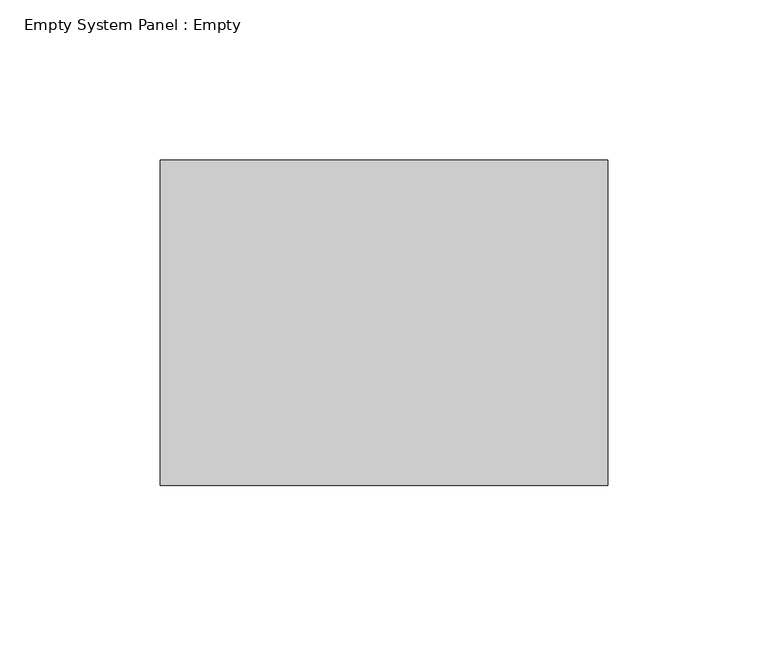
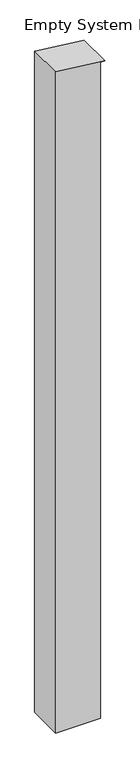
"""IFC4 building model written with IfcOpenShell, lengths in millimetres: plate geometry, Empty System Panel : Empty."""

from ifc_helpers import new_model, si_unit, frame, origin, place, context, project, spatial, polyline, outline, extrude, source, transform, mapped, element, save


def empty_system_panel_empty_fcc8ebfd(model_context):
    return source(origin(), model_context, "Body", "SweptSolid", [
        extrude(outline(polyline([(0.0, -69.85), (0.0, 57.15), (1957.2562483, 57.15), (1957.2562483, 69.85), (1972.8814383, -69.85), (0.0, -69.85)])), frame((0.0, -50.8, 0.0), z_axis=(0.0, 1.0, 0.0), x_axis=(0.0, 0.0, 1.0)), (0.0, 0.0, 1.0), 101.6),
    ])


if __name__ == "__main__":
    model = new_model("IFC4")
    model_context = context("Model", 3, world=origin())
    ifc_project = project(units=[si_unit("LENGTHUNIT", "METRE", prefix="MILLI")], contexts=[model_context])
    site = spatial("IfcSite", under=ifc_project)
    building = spatial("IfcBuilding", under=site)
    placement = place(None, origin())
    empty_system_panel_empty_shape = empty_system_panel_empty_fcc8ebfd(model_context)
    element("IfcPlate", 1, ObjectType="Empty System Panel : Empty", at=placement, inside=building, context=model_context, shape_type="MappedRepresentation", body=[
        mapped(empty_system_panel_empty_shape, transform((0.0, 0.0, 0.0), x_axis=(1.0, 0.0, 0.0), y_axis=(0.0, 1.0, 0.0), z_axis=(0.0, 0.0, 1.0))),
    ])
    save(model, "model.ifc")
